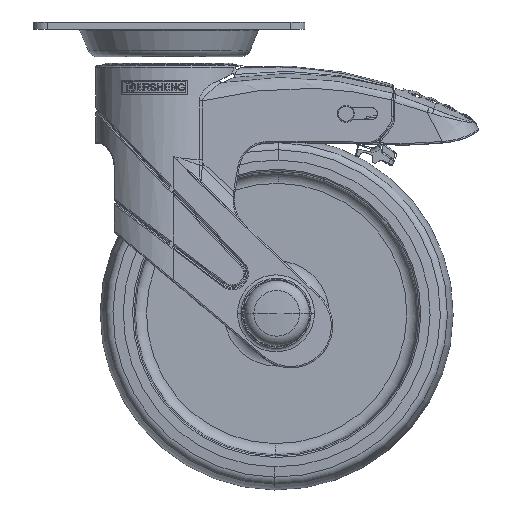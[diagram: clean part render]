
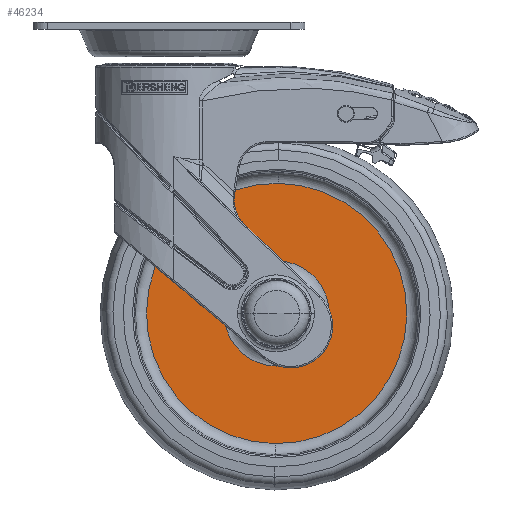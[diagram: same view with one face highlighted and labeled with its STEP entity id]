
A CAD part, top view. The second image highlights one B-rep face of the part: STEP entity #46234.
In plain terms, the highlighted planar face has unit normal (0, 0, 1).
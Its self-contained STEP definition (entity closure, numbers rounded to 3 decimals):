
#45835=CARTESIAN_POINT('',(38.,-82.3,2.75));
#45836=DIRECTION('',(0.,0.,-1.));
#45837=DIRECTION('',(-0.012,-1.,0.));
#45838=AXIS2_PLACEMENT_3D('',#45835,#45836,#45837);
#45840=CARTESIAN_POINT('',(38.,-82.3,2.75));
#45841=DIRECTION('',(0.,0.,-1.));
#45842=DIRECTION('',(0.012,1.,0.));
#45843=AXIS2_PLACEMENT_3D('',#45840,#45841,#45842);
#45845=CARTESIAN_POINT('',(38.,-82.3,2.75));
#45846=DIRECTION('',(0.,0.,-1.));
#45847=DIRECTION('',(-0.012,-1.,0.));
#45848=AXIS2_PLACEMENT_3D('',#45845,#45846,#45847);
#45850=CARTESIAN_POINT('',(38.,-82.3,2.75));
#45851=DIRECTION('',(0.,0.,-1.));
#45852=DIRECTION('',(0.012,1.,0.));
#45853=AXIS2_PLACEMENT_3D('',#45850,#45851,#45852);
#46129=CARTESIAN_POINT('',(37.47,-128.32,2.75));
#46130=CARTESIAN_POINT('',(38.53,-36.28,2.75));
#46131=VERTEX_POINT('',#46129);
#46132=VERTEX_POINT('',#46130);
#46149=CARTESIAN_POINT('',(37.786,-100.883,2.75));
#46150=CARTESIAN_POINT('',(38.214,-63.717,2.75));
#46151=VERTEX_POINT('',#46149);
#46152=VERTEX_POINT('',#46150);
#46217=CARTESIAN_POINT('',(38.,-82.3,2.75));
#46218=DIRECTION('',(0.,0.,-1.));
#46219=DIRECTION('',(-0.012,-1.,0.));
#46220=AXIS2_PLACEMENT_3D('',#46217,#46218,#46219);
#46221=PLANE('',#46220);
#46223=ORIENTED_EDGE('',*,*,#46222,.T.);
#46225=ORIENTED_EDGE('',*,*,#46224,.T.);
#46226=EDGE_LOOP('',(#46223,#46225));
#46227=FACE_OUTER_BOUND('',#46226,.F.);
#46229=ORIENTED_EDGE('',*,*,#46228,.F.);
#46231=ORIENTED_EDGE('',*,*,#46230,.F.);
#46232=EDGE_LOOP('',(#46229,#46231));
#46233=FACE_BOUND('',#46232,.F.);
#45839=CIRCLE('',#45838,46.023);
#45844=CIRCLE('',#45843,46.023);
#45849=CIRCLE('',#45848,18.585);
#45854=CIRCLE('',#45853,18.585);
#46222=EDGE_CURVE('',#46131,#46132,#45839,.T.);
#46224=EDGE_CURVE('',#46132,#46131,#45844,.T.);
#46228=EDGE_CURVE('',#46151,#46152,#45849,.T.);
#46230=EDGE_CURVE('',#46152,#46151,#45854,.T.);
#46234=ADVANCED_FACE('',(#46227,#46233),#46221,.F.);
